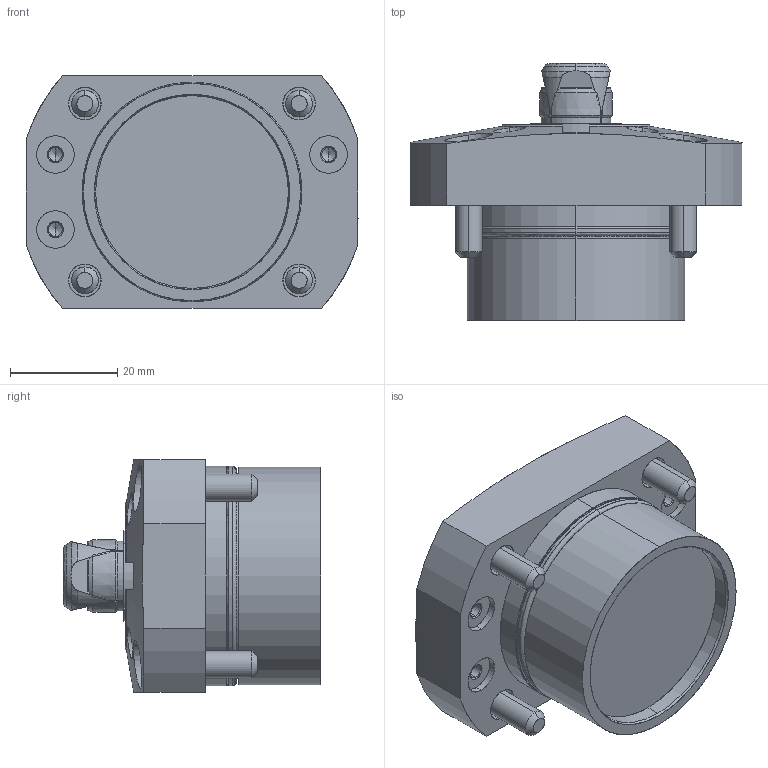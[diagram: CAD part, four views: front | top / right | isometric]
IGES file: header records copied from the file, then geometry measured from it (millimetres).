
Start section: SolidWorks IGES file using analytic representation for surfaces
Global section: file name: L:\電子カタログ-3Ｄ\SFH\ｱｾﾝﾌﾞﾘ\SFH2140.IGS; native system: SolidWorks 2010; preprocessor: SolidWorks 2010; author: D214; date: 101104.081813; units: millimetre
Bounding box: 62 x 48 x 43.5 mm (x, y, z)
Surface area: 21958.8 mm2 (no closed solid volume)
Topology: 0 solids, 0 shells, 488 faces, 6359 edges, 6335 vertices
Faces by surface type: revolution 278, bspline 210
